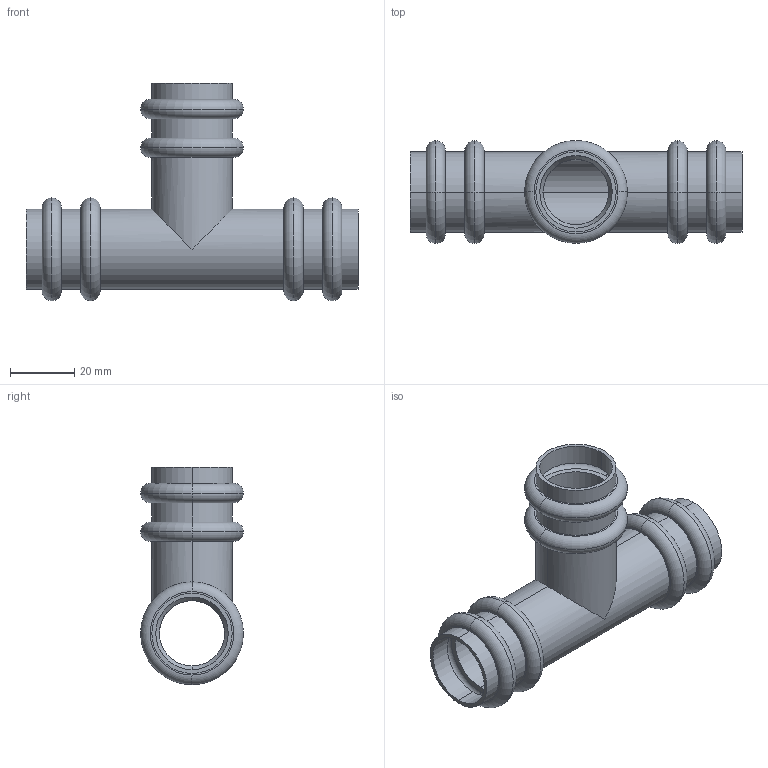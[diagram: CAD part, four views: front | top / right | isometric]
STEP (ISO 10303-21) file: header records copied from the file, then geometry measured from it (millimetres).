
FILE_DESCRIPTION(('starvars output'),'1');
FILE_NAME('cv20240422105011000011851.stp','10:50:12 2024/04/22',('Thomas Industrial Network Germany GmbH'),(' '),'Spatial InterOp 3D',' ',' ');
FILE_SCHEMA(('AUTOMOTIVE_DESIGN { 1 0 10303 214 3 1 1 }'));
Length unit declared in the file: millimetre
Products named in the file (1): 1
Bounding box: 103 x 31.9 x 67.45 mm (x, y, z)
Volume: 19140.6 mm3; surface area: 26822.6 mm2
Topology: 1 solids, 1 shells, 119 faces, 246 edges, 152 vertices
Faces by surface type: torus 48, cylinder 38, plane 27, cone 6
Entity records: 4216 total; most frequent: DIRECTION 686, CARTESIAN_POINT 518, ORIENTED_EDGE 492, AXIS2_PLACEMENT_3D 320, EDGE_CURVE 246, CIRCLE 192, VERTEX_POINT 152, EDGE_LOOP 146
